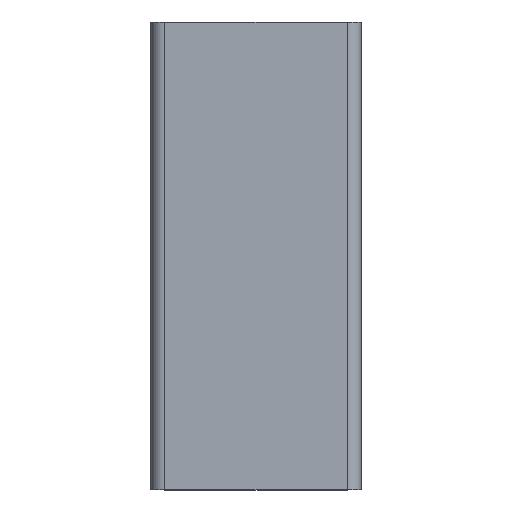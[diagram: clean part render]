
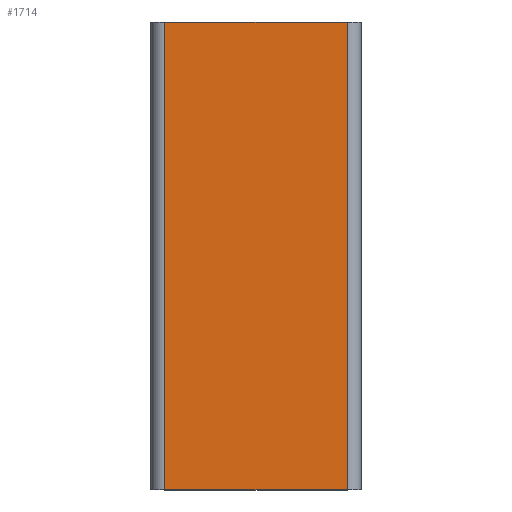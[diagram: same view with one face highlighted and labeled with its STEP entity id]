
A CAD part, top view. The second image highlights one B-rep face of the part: STEP entity #1714.
In plain terms, the highlighted planar face has unit normal (0, 0, 1).
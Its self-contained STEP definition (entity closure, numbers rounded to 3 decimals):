
#164 = CARTESIAN_POINT ( 'NONE',  ( 19.5, 50., 22.5 ) ) ;
#224 = EDGE_CURVE ( 'NONE', #6631, #679, #3574, .T. ) ;
#646 = DIRECTION ( 'NONE',  ( 1., 0., 0. ) ) ;
#651 = LINE ( 'NONE', #1245, #5264 ) ;
#679 = VERTEX_POINT ( 'NONE', #3839 ) ;
#888 = ORIENTED_EDGE ( 'NONE', *, *, #224, .F. ) ;
#1245 = CARTESIAN_POINT ( 'NONE',  ( 19.5, 50., 22.5 ) ) ;
#1264 = EDGE_CURVE ( 'NONE', #3227, #6631, #651, .T. ) ;
#1277 = DIRECTION ( 'NONE',  ( 0., -1., 0. ) ) ;
#1714 = ADVANCED_FACE ( 'NONE', ( #2584 ), #2071, .F. ) ;
#2071 = PLANE ( 'NONE',  #6203 ) ;
#2136 = CARTESIAN_POINT ( 'NONE',  ( -19.5, -50., 22.5 ) ) ;
#2149 = DIRECTION ( 'NONE',  ( 0., 0., -1. ) ) ;
#2584 = FACE_OUTER_BOUND ( 'NONE', #4272, .T. ) ;
#2669 = CARTESIAN_POINT ( 'NONE',  ( -19.5, 50., 22.5 ) ) ;
#2792 = LINE ( 'NONE', #3869, #4367 ) ;
#3095 = ORIENTED_EDGE ( 'NONE', *, *, #3618, .T. ) ;
#3227 = VERTEX_POINT ( 'NONE', #2669 ) ;
#3574 = LINE ( 'NONE', #164, #3888 ) ;
#3618 = EDGE_CURVE ( 'NONE', #3227, #4416, #2792, .T. ) ;
#3729 = CARTESIAN_POINT ( 'NONE',  ( 19.5, 50., 22.5 ) ) ;
#3839 = CARTESIAN_POINT ( 'NONE',  ( 19.5, -50., 22.5 ) ) ;
#3869 = CARTESIAN_POINT ( 'NONE',  ( -19.5, 50., 22.5 ) ) ;
#3888 = VECTOR ( 'NONE', #1277, 1000. ) ;
#3897 = LINE ( 'NONE', #3935, #4684 ) ;
#3935 = CARTESIAN_POINT ( 'NONE',  ( 19.5, -50., 22.5 ) ) ;
#4272 = EDGE_LOOP ( 'NONE', ( #5735, #888, #4849, #3095 ) ) ;
#4281 = CARTESIAN_POINT ( 'NONE',  ( 19.5, 50., 22.5 ) ) ;
#4318 = DIRECTION ( 'NONE',  ( -1., 0., 0. ) ) ;
#4367 = VECTOR ( 'NONE', #6074, 1000. ) ;
#4416 = VERTEX_POINT ( 'NONE', #2136 ) ;
#4510 = EDGE_CURVE ( 'NONE', #4416, #679, #3897, .T. ) ;
#4684 = VECTOR ( 'NONE', #646, 1000. ) ;
#4849 = ORIENTED_EDGE ( 'NONE', *, *, #1264, .F. ) ;
#5152 = DIRECTION ( 'NONE',  ( 1., 0., 0. ) ) ;
#5264 = VECTOR ( 'NONE', #5152, 1000. ) ;
#5735 = ORIENTED_EDGE ( 'NONE', *, *, #4510, .T. ) ;
#6074 = DIRECTION ( 'NONE',  ( 0., -1., 0. ) ) ;
#6203 = AXIS2_PLACEMENT_3D ( 'NONE', #4281, #2149, #4318 ) ;
#6631 = VERTEX_POINT ( 'NONE', #3729 ) ;
